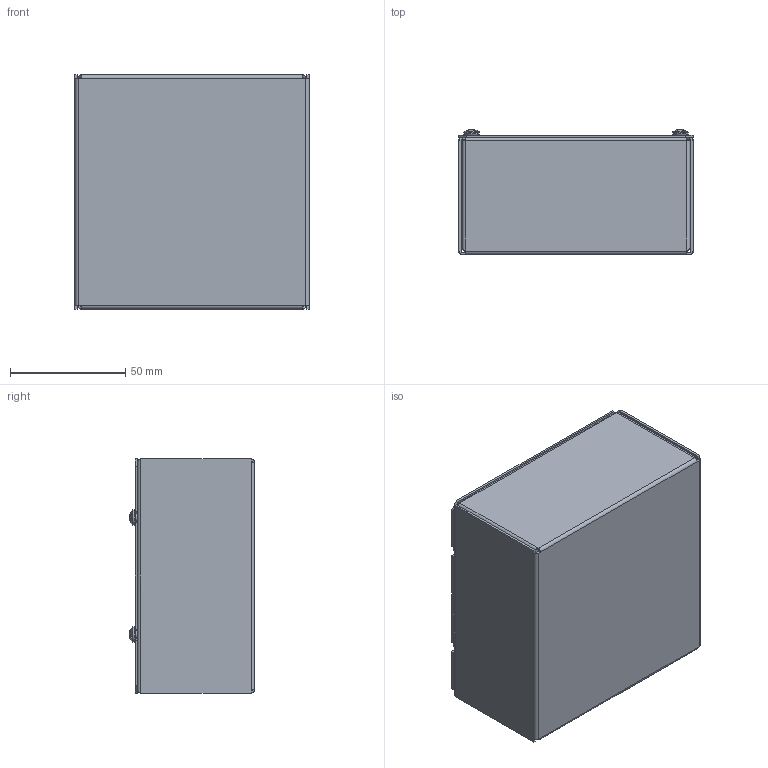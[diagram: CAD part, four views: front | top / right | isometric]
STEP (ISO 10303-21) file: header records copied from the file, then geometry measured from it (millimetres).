
FILE_DESCRIPTION((''),'2;1');
FILE_NAME('E:\Eng\Customer Service\Drawings\1441 & 1431\STEP Files\1441-6\1441-6 - Assembly.iam.stp','2013-07-10T11:34:11',(''),(''),'Autodesk Inventor 2013','Autodesk Inventor 2013','');
FILE_SCHEMA(('AUTOMOTIVE_DESIGN { 1 0 10303 214 1 1 1 1 }'));
Length unit declared in the file: inch
Products named in the file (4): 1441-6 - Assembly; 1441-6; 1431-6; 6-32 (SC18394)
Assembly tree (6 placements, depth 2):
  1441-6 - Assembly
    1441-6
    1431-6
    6-32 (SC18394)  x4
Bounding box: 101.6 x 54.23 x 101.6 mm (x, y, z)
Volume: 41363.5 mm3; surface area: 91584.3 mm2
Topology: 6 solids, 6 shells, 248 faces, 616 edges, 384 vertices
Faces by surface type: plane 184, cylinder 40, bspline 16, torus 8
Full cylindrical faces by diameter (mm): 2.946 x4, 3.404 x4, 6.731 x4
Entity records: 5192 total; most frequent: CARTESIAN_POINT 1247, ORIENTED_EDGE 794, DIRECTION 758, EDGE_CURVE 397, VECTOR 310, LINE 310, VERTEX_POINT 245, AXIS2_PLACEMENT_3D 224
